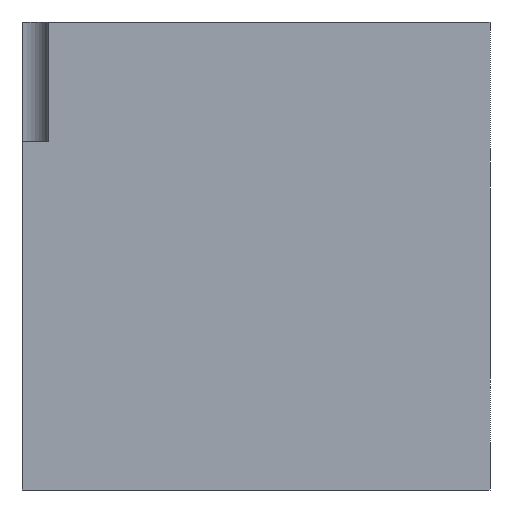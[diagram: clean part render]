
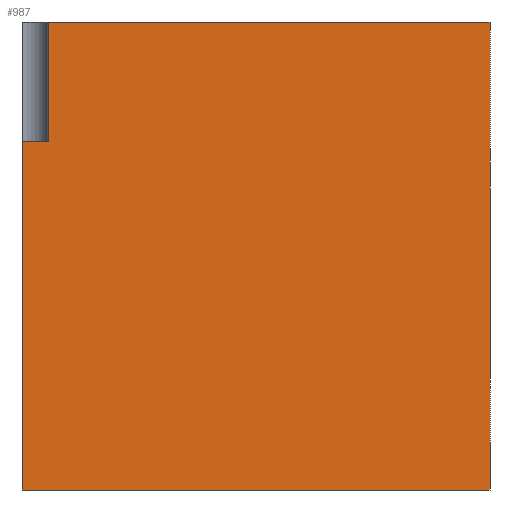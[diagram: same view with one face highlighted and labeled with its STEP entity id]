
A CAD part, left-side view. The second image highlights one B-rep face of the part: STEP entity #987.
In plain terms, the highlighted planar face has unit normal (-1, 0, 0).
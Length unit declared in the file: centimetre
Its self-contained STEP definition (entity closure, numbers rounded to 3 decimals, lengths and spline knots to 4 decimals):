
#24 = CARTESIAN_POINT ( 'NONE',  ( 0., 943.1913, 1000. ) ) ;
#27 = CARTESIAN_POINT ( 'NONE',  ( 0., 1000., 1000. ) ) ;
#40 = DIRECTION ( 'NONE',  ( 1., 0., 0. ) ) ;
#62 = DIRECTION ( 'NONE',  ( 0., 0., -1. ) ) ;
#75 = DIRECTION ( 'NONE',  ( 0., -1., 0. ) ) ;
#110 = EDGE_CURVE ( 'NONE', #575, #526, #673, .T. ) ;
#114 = CARTESIAN_POINT ( 'NONE',  ( 0., 0., 1000. ) ) ;
#122 = ORIENTED_EDGE ( 'NONE', *, *, #570, .T. ) ;
#125 = VERTEX_POINT ( 'NONE', #369 ) ;
#130 = ORIENTED_EDGE ( 'NONE', *, *, #402, .T. ) ;
#133 = PLANE ( 'NONE',  #477 ) ;
#194 = DIRECTION ( 'NONE',  ( 0., -1., 0. ) ) ;
#296 = EDGE_LOOP ( 'NONE', ( #707, #533, #665, #122, #130, #1279 ) ) ;
#313 = VERTEX_POINT ( 'NONE', #515 ) ;
#317 = VECTOR ( 'NONE', #194, 100. ) ;
#323 = FACE_OUTER_BOUND ( 'NONE', #296, .T. ) ;
#369 = CARTESIAN_POINT ( 'NONE',  ( 0., 1000., 743.9221 ) ) ;
#402 = EDGE_CURVE ( 'NONE', #836, #313, #1134, .T. ) ;
#404 = CARTESIAN_POINT ( 'NONE',  ( 0., 1000., 0. ) ) ;
#441 = DIRECTION ( 'NONE',  ( 0., 0., -1. ) ) ;
#445 = DIRECTION ( 'NONE',  ( 0., 0., -1. ) ) ;
#469 = LINE ( 'NONE', #789, #796 ) ;
#477 = AXIS2_PLACEMENT_3D ( 'NONE', #27, #40, #441 ) ;
#515 = CARTESIAN_POINT ( 'NONE',  ( 0., 0., 0. ) ) ;
#526 = VERTEX_POINT ( 'NONE', #781 ) ;
#533 = ORIENTED_EDGE ( 'NONE', *, *, #110, .T. ) ;
#553 = LINE ( 'NONE', #649, #721 ) ;
#570 = EDGE_CURVE ( 'NONE', #125, #836, #553, .T. ) ;
#575 = VERTEX_POINT ( 'NONE', #24 ) ;
#585 = CARTESIAN_POINT ( 'NONE',  ( 0., 1000., 1000. ) ) ;
#649 = CARTESIAN_POINT ( 'NONE',  ( 0., 1000., 1000. ) ) ;
#665 = ORIENTED_EDGE ( 'NONE', *, *, #711, .F. ) ;
#673 = LINE ( 'NONE', #1001, #1152 ) ;
#680 = VERTEX_POINT ( 'NONE', #1014 ) ;
#704 = EDGE_CURVE ( 'NONE', #575, #680, #891, .T. ) ;
#707 = ORIENTED_EDGE ( 'NONE', *, *, #704, .F. ) ;
#711 = EDGE_CURVE ( 'NONE', #125, #526, #469, .T. ) ;
#721 = VECTOR ( 'NONE', #445, 100. ) ;
#781 = CARTESIAN_POINT ( 'NONE',  ( 0., 943.1913, 743.9221 ) ) ;
#789 = CARTESIAN_POINT ( 'NONE',  ( 0., 1000., 743.9221 ) ) ;
#796 = VECTOR ( 'NONE', #1310, 100. ) ;
#836 = VERTEX_POINT ( 'NONE', #404 ) ;
#858 = VECTOR ( 'NONE', #75, 100. ) ;
#891 = LINE ( 'NONE', #585, #858 ) ;
#987 = ADVANCED_FACE ( 'NONE', ( #323 ), #133, .F. ) ;
#1001 = CARTESIAN_POINT ( 'NONE',  ( 0., 943.1913, 743.9221 ) ) ;
#1014 = CARTESIAN_POINT ( 'NONE',  ( 0., 0., 1000. ) ) ;
#1107 = EDGE_CURVE ( 'NONE', #680, #313, #1286, .T. ) ;
#1134 = LINE ( 'NONE', #1145, #317 ) ;
#1145 = CARTESIAN_POINT ( 'NONE',  ( 0., 1000., 0. ) ) ;
#1152 = VECTOR ( 'NONE', #62, 100. ) ;
#1163 = DIRECTION ( 'NONE',  ( 0., 0., -1. ) ) ;
#1258 = VECTOR ( 'NONE', #1163, 100. ) ;
#1279 = ORIENTED_EDGE ( 'NONE', *, *, #1107, .F. ) ;
#1286 = LINE ( 'NONE', #114, #1258 ) ;
#1310 = DIRECTION ( 'NONE',  ( 0., -1., 0. ) ) ;
